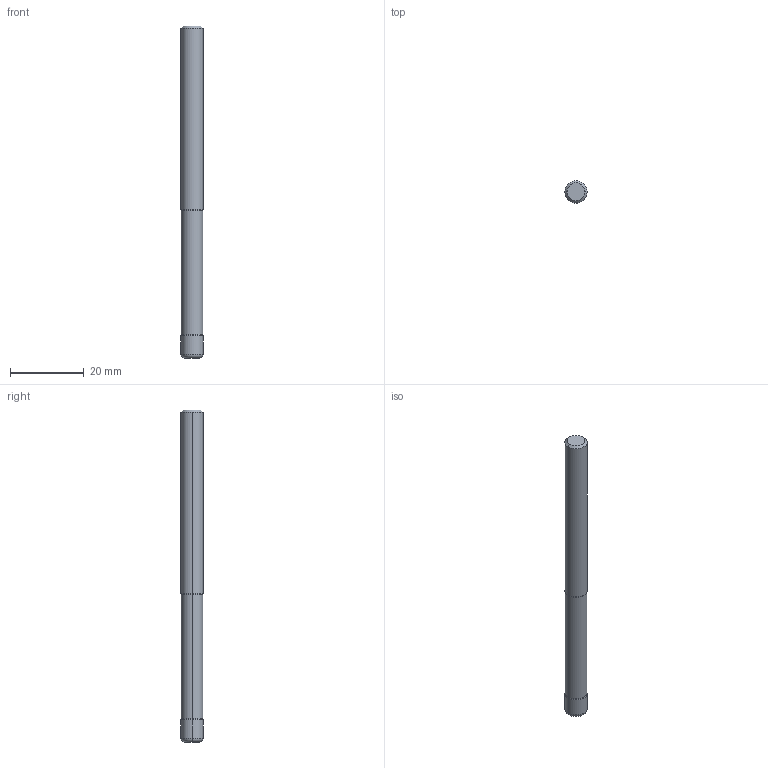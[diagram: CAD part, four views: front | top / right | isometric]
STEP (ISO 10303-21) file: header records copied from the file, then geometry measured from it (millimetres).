
FILE_DESCRIPTION (( 'STEP AP214' ), '1' );
FILE_NAME ('560.605.75_3D-model.step', '2022-02-18T16:01:28', ( '' ), ( '' ), 'SwSTEP 2.0', 'SolidWorks 2020', '' );
FILE_SCHEMA (( 'AUTOMOTIVE_DESIGN' ));
Length unit declared in the file: millimetre
Products named in the file (3): NOCUT-3D^Baugr71; 560.605.75_3D-model; CUT-3D^Baugr71
Assembly tree (2 placements, depth 2):
  560.605.75_3D-model
    CUT-3D^Baugr71
    NOCUT-3D^Baugr71
Bounding box: 6 x 6 x 90 mm (x, y, z)
Volume: 2506 mm3; surface area: 1783.5 mm2
Topology: 2 solids, 2 shells, 20 faces, 36 edges, 20 vertices
Faces by surface type: cylinder 6, cone 6, torus 4, plane 4
Entity records: 610 total; most frequent: DIRECTION 116, CARTESIAN_POINT 84, ORIENTED_EDGE 72, AXIS2_PLACEMENT_3D 52, EDGE_CURVE 36, CIRCLE 24, ADVANCED_FACE 20, FACE_OUTER_BOUND 20
